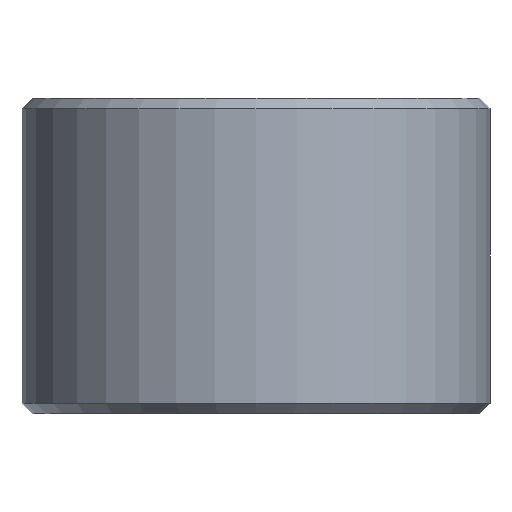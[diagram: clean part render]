
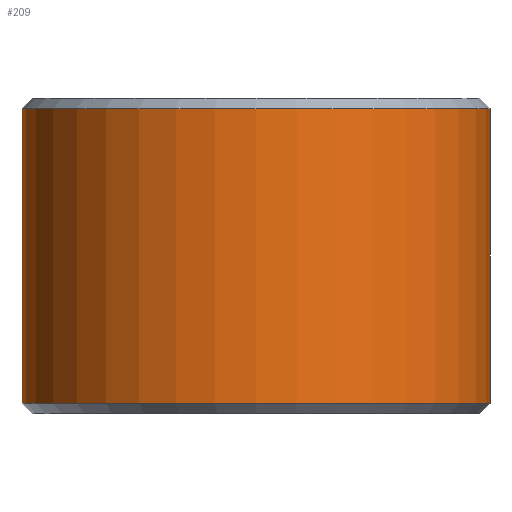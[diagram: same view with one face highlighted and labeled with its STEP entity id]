
A CAD part, front view. The second image highlights one B-rep face of the part: STEP entity #209.
In plain terms, the highlighted cylindrical face has radius 20 mm (diameter 40 mm), a partial arc.
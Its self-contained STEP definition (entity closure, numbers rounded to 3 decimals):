
#14 = VERTEX_POINT ( 'NONE', #253 ) ;
#38 = DIRECTION ( 'NONE',  ( 0., 0., 1. ) ) ;
#49 = VERTEX_POINT ( 'NONE', #85 ) ;
#62 = LINE ( 'NONE', #194, #210 ) ;
#63 = DIRECTION ( 'NONE',  ( -1., 0., 0. ) ) ;
#72 = AXIS2_PLACEMENT_3D ( 'NONE', #110, #38, #384 ) ;
#85 = CARTESIAN_POINT ( 'NONE',  ( 20., 0., 12.6 ) ) ;
#90 = ORIENTED_EDGE ( 'NONE', *, *, #337, .T. ) ;
#103 = CYLINDRICAL_SURFACE ( 'NONE', #374, 20. ) ;
#108 = CIRCLE ( 'NONE', #72, 20. ) ;
#110 = CARTESIAN_POINT ( 'NONE',  ( 0., 0., -12.6 ) ) ;
#121 = ORIENTED_EDGE ( 'NONE', *, *, #165, .F. ) ;
#122 = EDGE_CURVE ( 'NONE', #281, #14, #264, .T. ) ;
#133 = DIRECTION ( 'NONE',  ( 0., 0., -1. ) ) ;
#165 = EDGE_CURVE ( 'NONE', #49, #368, #62, .T. ) ;
#169 = DIRECTION ( 'NONE',  ( 1., 0., 0. ) ) ;
#194 = CARTESIAN_POINT ( 'NONE',  ( 20., 0., 13.5 ) ) ;
#198 = VECTOR ( 'NONE', #266, 1000. ) ;
#209 = ADVANCED_FACE ( 'NONE', ( #440 ), #103, .T. ) ;
#210 = VECTOR ( 'NONE', #342, 1000. ) ;
#211 = CIRCLE ( 'NONE', #276, 20. ) ;
#253 = CARTESIAN_POINT ( 'NONE',  ( -20., 0., -12.6 ) ) ;
#264 = LINE ( 'NONE', #437, #198 ) ;
#266 = DIRECTION ( 'NONE',  ( 0., 0., -1. ) ) ;
#276 = AXIS2_PLACEMENT_3D ( 'NONE', #278, #416, #169 ) ;
#278 = CARTESIAN_POINT ( 'NONE',  ( 0., 0., 12.6 ) ) ;
#281 = VERTEX_POINT ( 'NONE', #408 ) ;
#311 = EDGE_CURVE ( 'NONE', #14, #368, #108, .T. ) ;
#314 = CARTESIAN_POINT ( 'NONE',  ( 20., 0., -12.6 ) ) ;
#334 = ORIENTED_EDGE ( 'NONE', *, *, #122, .T. ) ;
#337 = EDGE_CURVE ( 'NONE', #49, #281, #211, .T. ) ;
#342 = DIRECTION ( 'NONE',  ( 0., 0., -1. ) ) ;
#344 = CARTESIAN_POINT ( 'NONE',  ( 0., 0., 13.5 ) ) ;
#355 = EDGE_LOOP ( 'NONE', ( #121, #90, #334, #436 ) ) ;
#368 = VERTEX_POINT ( 'NONE', #314 ) ;
#374 = AXIS2_PLACEMENT_3D ( 'NONE', #344, #133, #63 ) ;
#384 = DIRECTION ( 'NONE',  ( 1., 0., 0. ) ) ;
#408 = CARTESIAN_POINT ( 'NONE',  ( -20., 0., 12.6 ) ) ;
#416 = DIRECTION ( 'NONE',  ( 0., 0., -1. ) ) ;
#436 = ORIENTED_EDGE ( 'NONE', *, *, #311, .T. ) ;
#437 = CARTESIAN_POINT ( 'NONE',  ( -20., 0., 13.5 ) ) ;
#440 = FACE_OUTER_BOUND ( 'NONE', #355, .T. ) ;
